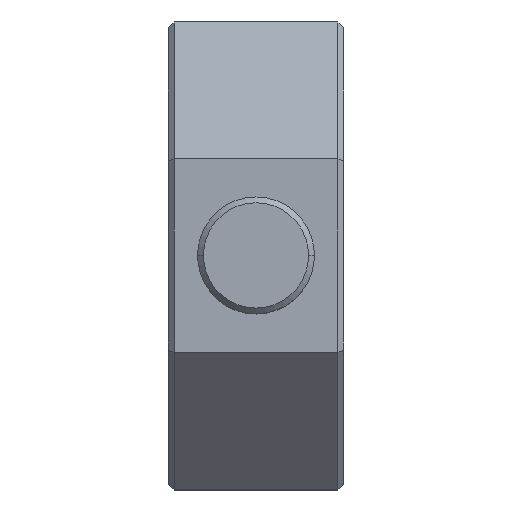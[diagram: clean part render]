
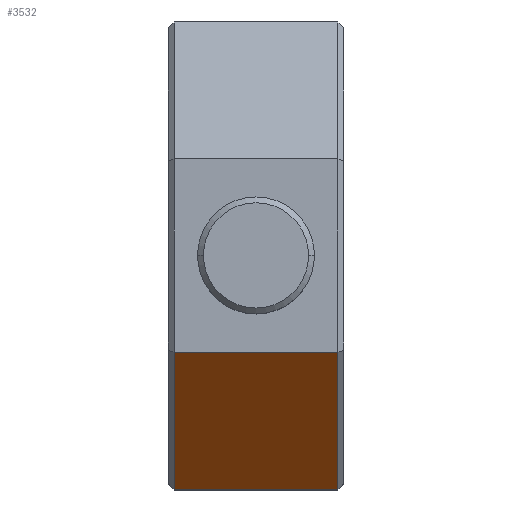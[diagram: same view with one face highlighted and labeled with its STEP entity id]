
A CAD part, top view. The second image highlights one B-rep face of the part: STEP entity #3532.
In plain terms, the highlighted planar face has unit normal (0, -0.707, 0.707).
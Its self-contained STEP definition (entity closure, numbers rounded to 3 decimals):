
#79 = DIRECTION ( 'NONE',  ( 1., 0., 0. ) ) ;
#108 = DIRECTION ( 'NONE',  ( 1., 0., 0. ) ) ;
#788 = DIRECTION ( 'NONE',  ( 0., 0.707, 0.707 ) ) ;
#870 = EDGE_CURVE ( 'NONE', #5282, #2926, #4680, .T. ) ;
#1086 = FACE_OUTER_BOUND ( 'NONE', #5066, .T. ) ;
#1142 = CARTESIAN_POINT ( 'NONE',  ( 14., -16.569, 40. ) ) ;
#1235 = CARTESIAN_POINT ( 'NONE',  ( 14., -16.569, 40. ) ) ;
#1456 = EDGE_CURVE ( 'NONE', #1493, #2926, #3060, .T. ) ;
#1493 = VERTEX_POINT ( 'NONE', #3919 ) ;
#1621 = ORIENTED_EDGE ( 'NONE', *, *, #1456, .T. ) ;
#1754 = CARTESIAN_POINT ( 'NONE',  ( -14., -16.569, 40. ) ) ;
#2340 = LINE ( 'NONE', #4203, #4347 ) ;
#2417 = ORIENTED_EDGE ( 'NONE', *, *, #2825, .T. ) ;
#2488 = CARTESIAN_POINT ( 'NONE',  ( -15., -16.569, 40. ) ) ;
#2813 = VECTOR ( 'NONE', #4786, 1000. ) ;
#2825 = EDGE_CURVE ( 'NONE', #5282, #4413, #5653, .T. ) ;
#2920 = PLANE ( 'NONE',  #3956 ) ;
#2926 = VERTEX_POINT ( 'NONE', #1142 ) ;
#3060 = LINE ( 'NONE', #1235, #5851 ) ;
#3340 = DIRECTION ( 'NONE',  ( 0., -0.707, -0.707 ) ) ;
#3490 = EDGE_CURVE ( 'NONE', #4413, #1493, #2340, .T. ) ;
#3532 = ADVANCED_FACE ( 'NONE', ( #1086 ), #2920, .T. ) ;
#3733 = ORIENTED_EDGE ( 'NONE', *, *, #870, .F. ) ;
#3806 = ORIENTED_EDGE ( 'NONE', *, *, #3490, .T. ) ;
#3868 = CARTESIAN_POINT ( 'NONE',  ( -15., -16.569, 40. ) ) ;
#3919 = CARTESIAN_POINT ( 'NONE',  ( 14., -40., 16.569 ) ) ;
#3956 = AXIS2_PLACEMENT_3D ( 'NONE', #2488, #5277, #3340 ) ;
#4127 = VECTOR ( 'NONE', #108, 1000. ) ;
#4203 = CARTESIAN_POINT ( 'NONE',  ( -15., -40., 16.569 ) ) ;
#4347 = VECTOR ( 'NONE', #79, 1000. ) ;
#4413 = VERTEX_POINT ( 'NONE', #5135 ) ;
#4680 = LINE ( 'NONE', #3868, #4127 ) ;
#4786 = DIRECTION ( 'NONE',  ( 0., -0.707, -0.707 ) ) ;
#5066 = EDGE_LOOP ( 'NONE', ( #3806, #1621, #3733, #2417 ) ) ;
#5135 = CARTESIAN_POINT ( 'NONE',  ( -14., -40., 16.569 ) ) ;
#5241 = CARTESIAN_POINT ( 'NONE',  ( -14., -40., 16.569 ) ) ;
#5277 = DIRECTION ( 'NONE',  ( 0., -0.707, 0.707 ) ) ;
#5282 = VERTEX_POINT ( 'NONE', #1754 ) ;
#5653 = LINE ( 'NONE', #5241, #2813 ) ;
#5851 = VECTOR ( 'NONE', #788, 1000. ) ;
